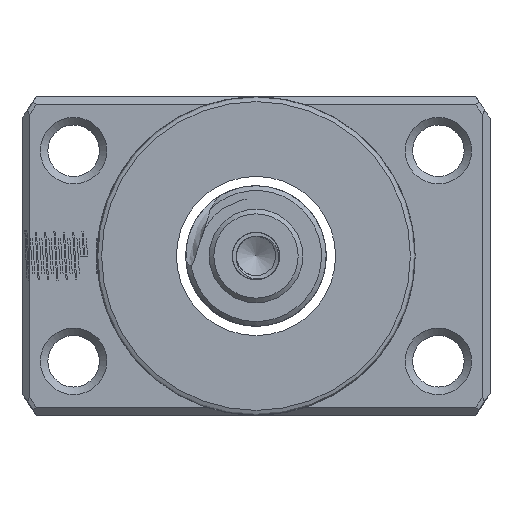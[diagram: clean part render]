
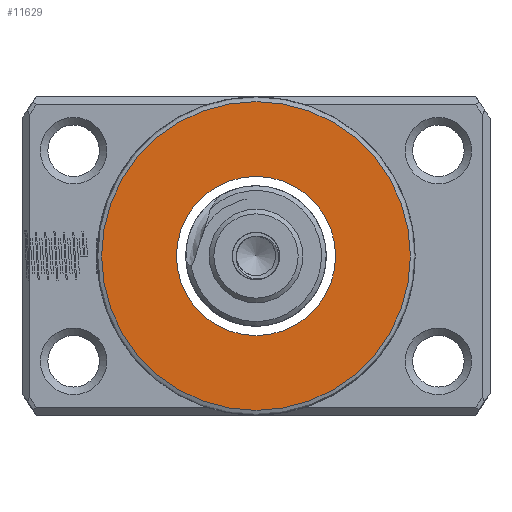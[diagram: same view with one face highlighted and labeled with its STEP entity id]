
A CAD part, left-side view. The second image highlights one B-rep face of the part: STEP entity #11629.
In plain terms, the highlighted planar face has unit normal (-1, 0, 0).
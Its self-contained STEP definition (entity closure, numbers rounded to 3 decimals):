
#179 = AXIS2_PLACEMENT_3D ( 'NONE', #21074, #17761, #5604 ) ;
#882 = DIRECTION ( 'NONE',  ( 0., 0., 1. ) ) ;
#931 = CIRCLE ( 'NONE', #14480, 16.5 ) ;
#3988 = CARTESIAN_POINT ( 'NONE',  ( -53.324, 0., 0. ) ) ;
#5346 = EDGE_CURVE ( 'NONE', #20357, #20357, #19217, .T. ) ;
#5451 = DIRECTION ( 'NONE',  ( 0., 0., 1. ) ) ;
#5604 = DIRECTION ( 'NONE',  ( 0., 0., 1. ) ) ;
#7053 = CARTESIAN_POINT ( 'NONE',  ( -53.324, 8.5, 0. ) ) ;
#7173 = PLANE ( 'NONE',  #16281 ) ;
#7512 = FACE_OUTER_BOUND ( 'NONE', #11153, .T. ) ;
#8057 = EDGE_CURVE ( 'NONE', #8227, #8227, #931, .T. ) ;
#8227 = VERTEX_POINT ( 'NONE', #15208 ) ;
#11153 = EDGE_LOOP ( 'NONE', ( #16442 ) ) ;
#11331 = DIRECTION ( 'NONE',  ( -1., 0., 0. ) ) ;
#11629 = ADVANCED_FACE ( 'NONE', ( #7512, #14280 ), #7173, .T. ) ;
#11666 = CARTESIAN_POINT ( 'NONE',  ( -53.324, 0., 8.5 ) ) ;
#14280 = FACE_BOUND ( 'NONE', #14814, .T. ) ;
#14480 = AXIS2_PLACEMENT_3D ( 'NONE', #3988, #11331, #882 ) ;
#14814 = EDGE_LOOP ( 'NONE', ( #20045 ) ) ;
#15208 = CARTESIAN_POINT ( 'NONE',  ( -53.324, 0., 16.5 ) ) ;
#16281 = AXIS2_PLACEMENT_3D ( 'NONE', #7053, #21028, #5451 ) ;
#16442 = ORIENTED_EDGE ( 'NONE', *, *, #8057, .T. ) ;
#17761 = DIRECTION ( 'NONE',  ( -1., 0., 0. ) ) ;
#19217 = CIRCLE ( 'NONE', #179, 8.5 ) ;
#20045 = ORIENTED_EDGE ( 'NONE', *, *, #5346, .F. ) ;
#20357 = VERTEX_POINT ( 'NONE', #11666 ) ;
#21028 = DIRECTION ( 'NONE',  ( -1., 0., 0. ) ) ;
#21074 = CARTESIAN_POINT ( 'NONE',  ( -53.324, 0., 0. ) ) ;
